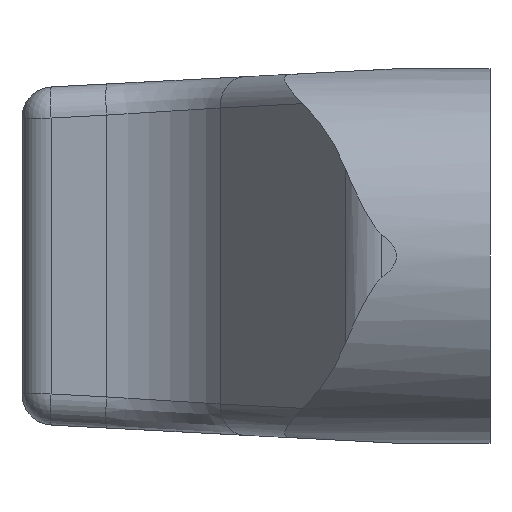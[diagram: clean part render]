
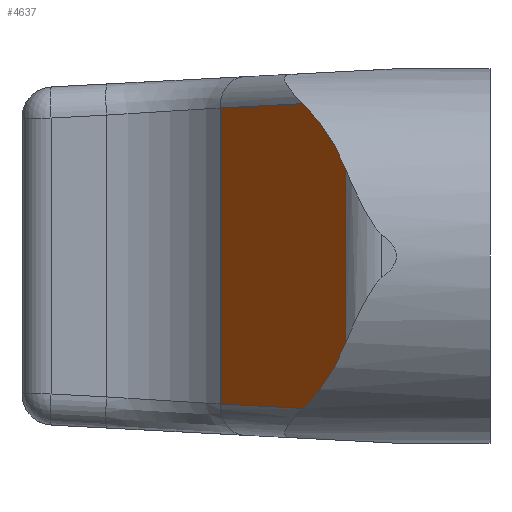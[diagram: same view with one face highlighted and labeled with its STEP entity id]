
A CAD part, left-side view. The second image highlights one B-rep face of the part: STEP entity #4637.
In plain terms, the highlighted planar face has unit normal (-0.602, 0.798, 0).
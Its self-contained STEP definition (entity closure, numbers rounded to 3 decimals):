
#34 = CARTESIAN_POINT ( 'NONE',  ( 0.68, 1.621, 6. ) ) ;
#85 = ORIENTED_EDGE ( 'NONE', *, *, #2192, .T. ) ;
#209 = ORIENTED_EDGE ( 'NONE', *, *, #2810, .F. ) ;
#290 = CARTESIAN_POINT ( 'NONE',  ( 0.68, 1.621, 2.775 ) ) ;
#488 = CARTESIAN_POINT ( 'NONE',  ( 4.33, 4.373, -4.811 ) ) ;
#947 = CARTESIAN_POINT ( 'NONE',  ( 2.514, 3.003, 4.883 ) ) ;
#1005 = DIRECTION ( 'NONE',  ( 0.602, -0.798, 0. ) ) ;
#1050 = VECTOR ( 'NONE', #5184, 1000. ) ;
#1073 = EDGE_LOOP ( 'NONE', ( #2863, #4787, #85, #1302, #1515, #209 ) ) ;
#1302 = ORIENTED_EDGE ( 'NONE', *, *, #6919, .F. ) ;
#1349 = CARTESIAN_POINT ( 'NONE',  ( 1.742, 2.421, -4.332 ) ) ;
#1515 = ORIENTED_EDGE ( 'NONE', *, *, #7196, .F. ) ;
#1569 = LINE ( 'NONE', #4681, #4952 ) ;
#1570 = CARTESIAN_POINT ( 'NONE',  ( 1.119, 1.952, 3.616 ) ) ;
#2016 = DIRECTION ( 'NONE',  ( 0., 0., -1. ) ) ;
#2192 = EDGE_CURVE ( 'NONE', #3133, #5125, #1569, .T. ) ;
#2344 =( BOUNDED_CURVE ( )  B_SPLINE_CURVE ( 3, ( #4075, #4739, #1570, #5995 ),
 .UNSPECIFIED., .F., .F. ) 
 B_SPLINE_CURVE_WITH_KNOTS ( ( 4, 4 ),
 ( 5.332, 5.802 ),
 .UNSPECIFIED. ) 
 CURVE ( )  GEOMETRIC_REPRESENTATION_ITEM ( )  RATIONAL_B_SPLINE_CURVE ( ( 1., 0.982, 0.982, 1. ) ) 
 REPRESENTATION_ITEM ( '' )  );
#2409 = VERTEX_POINT ( 'NONE', #6970 ) ;
#2462 = LINE ( 'NONE', #488, #4170 ) ;
#2810 = EDGE_CURVE ( 'NONE', #8031, #5050, #6112, .T. ) ;
#2840 = DIRECTION ( 'NONE',  ( -0.798, -0.602, 0.032 ) ) ;
#2863 = ORIENTED_EDGE ( 'NONE', *, *, #6271, .F. ) ;
#3093 = AXIS2_PLACEMENT_3D ( 'NONE', #4813, #1005, #5458 ) ;
#3110 = VERTEX_POINT ( 'NONE', #947 ) ;
#3133 = VERTEX_POINT ( 'NONE', #7945 ) ;
#3159 = CARTESIAN_POINT ( 'NONE',  ( 1.119, 1.952, -3.616 ) ) ;
#3629 = DIRECTION ( 'NONE',  ( 0.798, 0.602, 0.032 ) ) ;
#3852 = CARTESIAN_POINT ( 'NONE',  ( 0.68, 1.621, -2.775 ) ) ;
#4075 = CARTESIAN_POINT ( 'NONE',  ( 2.514, 3.003, 4.883 ) ) ;
#4115 = PLANE ( 'NONE',  #3093 ) ;
#4170 = VECTOR ( 'NONE', #3629, 1000. ) ;
#4637 = ADVANCED_FACE ( 'NONE', ( #6316 ), #4115, .F. ) ;
#4681 = CARTESIAN_POINT ( 'NONE',  ( 6.025, 5.651, 6. ) ) ;
#4739 = CARTESIAN_POINT ( 'NONE',  ( 1.742, 2.421, 4.332 ) ) ;
#4787 = ORIENTED_EDGE ( 'NONE', *, *, #7702, .F. ) ;
#4813 = CARTESIAN_POINT ( 'NONE',  ( 6.025, 5.651, 6. ) ) ;
#4823 =( BOUNDED_CURVE ( )  B_SPLINE_CURVE ( 3, ( #3852, #3159, #1349, #5776 ),
 .UNSPECIFIED., .F., .T. ) 
 B_SPLINE_CURVE_WITH_KNOTS ( ( 4, 4 ),
 ( 0.481, 0.951 ),
 .UNSPECIFIED. ) 
 CURVE ( )  GEOMETRIC_REPRESENTATION_ITEM ( )  RATIONAL_B_SPLINE_CURVE ( ( 1., 0.982, 0.982, 1. ) ) 
 REPRESENTATION_ITEM ( '' )  );
#4952 = VECTOR ( 'NONE', #2016, 1000. ) ;
#5013 = CARTESIAN_POINT ( 'NONE',  ( 6.025, 5.651, -4.744 ) ) ;
#5050 = VERTEX_POINT ( 'NONE', #8055 ) ;
#5125 = VERTEX_POINT ( 'NONE', #5013 ) ;
#5184 = DIRECTION ( 'NONE',  ( 0., 0., -1. ) ) ;
#5386 = VECTOR ( 'NONE', #2840, 1000. ) ;
#5458 = DIRECTION ( 'NONE',  ( 0.798, 0.602, 0. ) ) ;
#5776 = CARTESIAN_POINT ( 'NONE',  ( 2.514, 3.003, -4.883 ) ) ;
#5995 = CARTESIAN_POINT ( 'NONE',  ( 0.68, 1.621, 2.775 ) ) ;
#6112 = LINE ( 'NONE', #34, #1050 ) ;
#6271 = EDGE_CURVE ( 'NONE', #3110, #8031, #2344, .T. ) ;
#6316 = FACE_OUTER_BOUND ( 'NONE', #1073, .T. ) ;
#6609 = CARTESIAN_POINT ( 'NONE',  ( 6.001, 5.633, 4.745 ) ) ;
#6919 = EDGE_CURVE ( 'NONE', #2409, #5125, #2462, .T. ) ;
#6970 = CARTESIAN_POINT ( 'NONE',  ( 2.514, 3.003, -4.883 ) ) ;
#7196 = EDGE_CURVE ( 'NONE', #5050, #2409, #4823, .T. ) ;
#7208 = LINE ( 'NONE', #6609, #5386 ) ;
#7702 = EDGE_CURVE ( 'NONE', #3133, #3110, #7208, .T. ) ;
#7945 = CARTESIAN_POINT ( 'NONE',  ( 6.025, 5.651, 4.744 ) ) ;
#8031 = VERTEX_POINT ( 'NONE', #290 ) ;
#8055 = CARTESIAN_POINT ( 'NONE',  ( 0.68, 1.621, -2.775 ) ) ;
